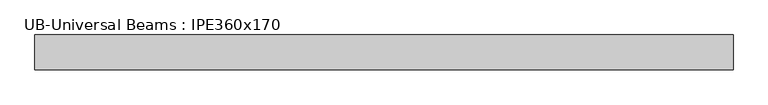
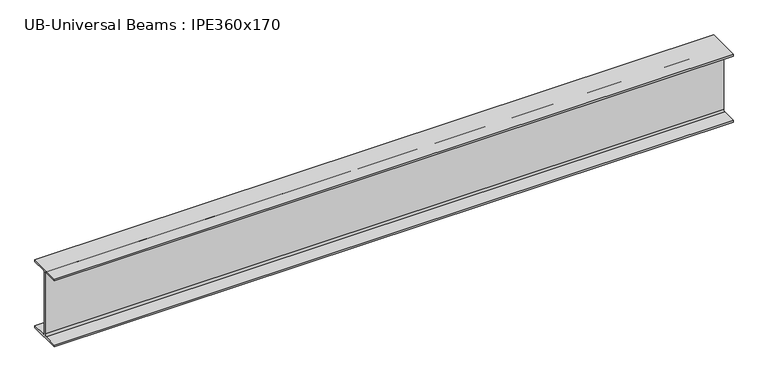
"""IFC4 building model written with IfcOpenShell, lengths in millimetres: beam geometry, UB-Universal Beams : IPE360x170."""

import ifcopenshell
import ifcopenshell.guid

model = None  # the IFC model being written
_history = None  # IfcOwnerHistory: only IFC2X3 demands one
_inside = {}  # id of a spatial element -> (the spatial element, [elements in it])
_under = {}  # id of a project, library or spatial element -> (it, [spatial elements below it])
_declared = {}  # id of a project -> (the project, [libraries it declares])
_typed = {}  # id of a type object -> (the type object, [elements of that type])
_made_of = {}  # id of a material, layer set ... -> (it, [elements and type objects made of it])


def new_model(schema):
    """Start an empty IFC model of exactly this schema.

    Asked for "IFC4X3", IfcOpenShell would pick the latest addendum, in which some entities
    have other attributes; the version numbers below select the first issue.
    IFC2X3 requires an IfcOwnerHistory on every rooted entity: one is made here for all.
    """
    global model, _history
    if schema == "IFC4X3":
        model = ifcopenshell.file(schema_version=(4, 3, 0, 0))
    else:
        model = ifcopenshell.file(schema=schema)
    _inside.clear()
    _under.clear()
    _declared.clear()
    _typed.clear()
    _made_of.clear()
    _history = None
    if model.schema == "IFC2X3":
        org = make("IfcOrganization", Name="unknown")
        user = make(
            "IfcPersonAndOrganization",
            ThePerson=make("IfcPerson", FamilyName="unknown"),
            TheOrganization=org,
        )
        app = make(
            "IfcApplication",
            ApplicationDeveloper=org,
            Version="unknown",
            ApplicationFullName="unknown",
            ApplicationIdentifier="unknown",
        )
        _history = make(
            "IfcOwnerHistory",
            OwningUser=user,
            OwningApplication=app,
            ChangeAction="ADDED",
            CreationDate=0,
        )
    return model


def make(cls, **values):
    """One entity of the class cls with the attributes given. An attribute that is None is left unset."""
    return model.create_entity(
        cls, **{name: value for name, value in values.items() if value is not None}
    )


def rooted(cls, **values):
    """An entity with a GlobalId (a new one), such as an element, a storey or a relation."""
    return make(cls, GlobalId=ifcopenshell.guid.new(), OwnerHistory=_history, **values)


def si_unit(unit_type, name, prefix=None):
    """IfcSIUnit, for example si_unit("LENGTHUNIT", "METRE", prefix="MILLI")."""
    return make("IfcSIUnit", UnitType=unit_type, Prefix=prefix, Name=name)


def assignment(units):
    """IfcUnitAssignment: the units of a project."""
    return None if units is None else make("IfcUnitAssignment", Units=units)


def point(xyz):
    """IfcCartesianPoint."""
    return None if xyz is None else make("IfcCartesianPoint", Coordinates=xyz)


def direction(xyz):
    """IfcDirection."""
    return None if xyz is None else make("IfcDirection", DirectionRatios=xyz)


def frame(location, z_axis=None, x_axis=None):
    """IfcAxis2Placement3D, a coordinate frame: its origin and axes. An axis left out is left unset."""
    return make(
        "IfcAxis2Placement3D",
        Location=point(location),
        Axis=direction(z_axis),
        RefDirection=direction(x_axis),
    )


def frame_2d(location, x_axis=None):
    """IfcAxis2Placement2D, a coordinate frame in the plane: its origin and x axis."""
    return make(
        "IfcAxis2Placement2D", Location=point(location), RefDirection=direction(x_axis)
    )


def origin():
    """The frame at (0, 0, 0) with its axes left unset."""
    return frame((0.0, 0.0, 0.0))


def place(relative_to, where):
    """IfcLocalPlacement: puts the frame where relative to a parent placement (None: the world)."""
    return make(
        "IfcLocalPlacement", PlacementRelTo=relative_to, RelativePlacement=where
    )


def context(
    kind, dimensions, precision=None, world=None, true_north=None, identifier=None
):
    """IfcGeometricRepresentationContext, for example the 3D "Model" context."""
    return make(
        "IfcGeometricRepresentationContext",
        ContextIdentifier=identifier,
        ContextType=kind,
        CoordinateSpaceDimension=dimensions,
        Precision=precision,
        WorldCoordinateSystem=world,
        TrueNorth=true_north,
    )


def project(units=None, contexts=None):
    """IfcProject with its units and contexts."""
    return rooted(
        "IfcProject",
        Name="project",
        RepresentationContexts=contexts,
        UnitsInContext=assignment(units),
    )


def spatial(cls, under=None, at=None, **own):
    """A site, building, storey or space (cls), placed at a placement, below another one or the project."""
    s = rooted(cls, ObjectPlacement=at, **own)
    if under is not None:
        _under.setdefault(under.id(), (under, []))[1].append(s)
    return s


def polyline(points):
    """IfcPolyline through the points."""
    return make("IfcPolyline", Points=[point(p) for p in points])


def circle_curve(where, radius):
    """IfcCircle in the frame where."""
    return make("IfcCircle", Position=where, Radius=radius)


def trimmed(basis, trim1, trim2, sense, master):
    """IfcTrimmedCurve: the piece of a basis curve between two trims."""
    return make(
        "IfcTrimmedCurve",
        BasisCurve=basis,
        Trim1=trim1,
        Trim2=trim2,
        SenseAgreement=sense,
        MasterRepresentation=master,
    )


def segment(curve, same_sense, transition):
    """IfcCompositeCurveSegment."""
    return make(
        "IfcCompositeCurveSegment",
        Transition=transition,
        SameSense=same_sense,
        ParentCurve=curve,
    )


def composite_curve(segments, self_intersect=None):
    """IfcCompositeCurve: segments joined end to end."""
    return make("IfcCompositeCurve", Segments=segments, SelfIntersect=self_intersect)


def outline(outer, holes=None, kind="AREA"):
    """IfcArbitraryClosedProfileDef: a profile drawn as a closed curve; with holes, ...WithVoids."""
    if holes is None:
        return make("IfcArbitraryClosedProfileDef", ProfileType=kind, OuterCurve=outer)
    return make(
        "IfcArbitraryProfileDefWithVoids",
        ProfileType=kind,
        OuterCurve=outer,
        InnerCurves=holes,
    )


def extrude(swept, where, along, depth):
    """IfcExtrudedAreaSolid: the profile swept, set in the frame where, extruded along a direction by depth."""
    return make(
        "IfcExtrudedAreaSolid",
        SweptArea=swept,
        Position=where,
        ExtrudedDirection=direction(along),
        Depth=depth,
    )


def shape(context_of_items, identifier, shape_type, items):
    """IfcShapeRepresentation: the items that make up one representation, for example the "Body"."""
    return make(
        "IfcShapeRepresentation",
        ContextOfItems=context_of_items,
        RepresentationIdentifier=identifier,
        RepresentationType=shape_type,
        Items=items,
    )


def source(mapping_origin, context_of_items, identifier, shape_type, items):
    """IfcRepresentationMap: a shape defined once, which mapped items show again and again."""
    return make(
        "IfcRepresentationMap",
        MappingOrigin=mapping_origin,
        MappedRepresentation=shape(context_of_items, identifier, shape_type, items),
    )


def transform(
    local_origin,
    x_axis=None,
    y_axis=None,
    z_axis=None,
    scale=None,
    scale2=None,
    scale3=None,
    uniform=True,
):
    """IfcCartesianTransformationOperator3D, or its non-uniform kind. x_axis, y_axis, z_axis: its Axis1, 2, 3."""
    if uniform:
        return make(
            "IfcCartesianTransformationOperator3D",
            Axis1=direction(x_axis),
            Axis2=direction(y_axis),
            LocalOrigin=point(local_origin),
            Scale=scale,
            Axis3=direction(z_axis),
        )
    return make(
        "IfcCartesianTransformationOperator3DnonUniform",
        Axis1=direction(x_axis),
        Axis2=direction(y_axis),
        LocalOrigin=point(local_origin),
        Scale=scale,
        Axis3=direction(z_axis),
        Scale2=scale2,
        Scale3=scale3,
    )


def mapped(mapping_source, mapping_target):
    """IfcMappedItem: shows the shape of a source again, moved by a transform."""
    return make(
        "IfcMappedItem", MappingSource=mapping_source, MappingTarget=mapping_target
    )


def made_of(thing, what):
    """Note that an element or type object is made of a material, layer set ...; save() writes the relation."""
    if what is not None:
        _made_of.setdefault(what.id(), (what, []))[1].append(thing)
    return thing


def element(
    cls,
    number,
    at=None,
    inside=None,
    cuts=None,
    type_object=None,
    material=None,
    context=None,
    identifier="Body",
    shape_type=None,
    held_by="IfcProductDefinitionShape",
    body=None,
    shapes=None,
    **own,
):
    """One element of the class cls, such as IfcWall. Its Tag is "e" and its number.

    at: its placement. inside: the storey or other place that contains it. cuts: it is an
    opening in that element (IfcRelVoidsElement). A single representation is given by context,
    identifier, shape_type and body (its items); several are given by shapes. held_by: the class
    of the entity that holds the representations. save() writes the other relations.
    """
    e = rooted(cls, Tag="e%d" % number, ObjectPlacement=at, **own)
    if body is not None:
        shapes = [shape(context, identifier, shape_type, body)]
    if shapes is not None:
        e.Representation = make(held_by, Representations=shapes)
    if inside is not None:
        _inside.setdefault(inside.id(), (inside, []))[1].append(e)
    if cuts is not None:
        rooted(
            "IfcRelVoidsElement", RelatingBuildingElement=cuts, RelatedOpeningElement=e
        )
    if type_object is not None:
        _typed.setdefault(type_object.id(), (type_object, []))[1].append(e)
    return made_of(e, material)


def aggregate(whole, parts):
    """IfcRelAggregates: a whole, such as a stair, and the parts it consists of."""
    return rooted("IfcRelAggregates", RelatingObject=whole, RelatedObjects=parts)


def save(model, path):
    """Write the relations noted so far, then the file.

    IfcRelAggregates (storeys below a building ...), IfcRelContainedInSpatialStructure (elements
    in a storey), IfcRelDefinesByType, IfcRelAssociatesMaterial and IfcRelDeclares: one each for
    every whole, place, type object, material and project.
    """
    for whole, parts in _under.values():
        aggregate(whole, parts)
    for where, things in _inside.values():
        rooted(
            "IfcRelContainedInSpatialStructure",
            RelatedElements=things,
            RelatingStructure=where,
        )
    for kind, things in _typed.values():
        rooted("IfcRelDefinesByType", RelatedObjects=things, RelatingType=kind)
    for what, things in _made_of.values():
        rooted("IfcRelAssociatesMaterial", RelatedObjects=things, RelatingMaterial=what)
    for by, libraries in _declared.values():
        rooted("IfcRelDeclares", RelatingContext=by, RelatedDefinitions=libraries)
    model.write(path)


def ub_universal_beams_ipe360x170_eaf81fbb(model_context):
    return source(origin(), model_context, "Body", "SweptSolid", [
        extrude(outline(composite_curve([segment(polyline([(85.0, -169.8), (85.0, -180.0), (-85.0, -180.0), (-85.0, -169.8), (-11.9, -169.8)]), True, "CONTINUOUS"), segment(trimmed(circle_curve(frame_2d((-11.9, -160.9)), 8.9), [point((-11.9, -169.8))], [point((-3.0, -160.9))], True, "CARTESIAN"), True, "CONTINUOUS"), segment(polyline([(-3.0, -160.9), (-3.0, 160.9)]), True, "CONTINUOUS"), segment(trimmed(circle_curve(frame_2d((-11.9, 160.9)), 8.9), [point((-3.0, 160.9))], [point((-11.9, 169.8))], True, "CARTESIAN"), True, "CONTINUOUS"), segment(polyline([(-11.9, 169.8), (-85.0, 169.8), (-85.0, 180.0), (85.0, 180.0), (85.0, 169.8), (11.9, 169.8)]), True, "CONTINUOUS"), segment(trimmed(circle_curve(frame_2d((11.9, 160.9)), 8.9), [point((11.9, 169.8))], [point((3.0, 160.9))], True, "CARTESIAN"), True, "CONTINUOUS"), segment(polyline([(3.0, 160.9), (3.0, -160.9)]), True, "CONTINUOUS"), segment(trimmed(circle_curve(frame_2d((11.9, -160.9)), 8.9), [point((3.0, -160.9))], [point((11.9, -169.8))], True, "CARTESIAN"), True, "CONTINUOUS"), segment(polyline([(11.9, -169.8), (85.0, -169.8)]), True, "CONTINUOUS")], self_intersect=False)), frame((-1593.4, 0.0, 0.0), z_axis=(1.0, 0.0, 0.0), x_axis=(0.0, 1.0, 0.0)), (0.0, 0.0, 1.0), 3404.4331121),
    ])


if __name__ == "__main__":
    model = new_model("IFC4")
    model_context = context("Model", 3, world=origin())
    ifc_project = project(units=[si_unit("LENGTHUNIT", "METRE", prefix="MILLI")], contexts=[model_context])
    site = spatial("IfcSite", under=ifc_project)
    building = spatial("IfcBuilding", under=site)
    placement = place(None, origin())
    ub_universal_beams_ipe360x170_shape = ub_universal_beams_ipe360x170_eaf81fbb(model_context)
    element("IfcBeam", 1, ObjectType="UB-Universal Beams : IPE360x170", at=placement, inside=building, context=model_context, shape_type="MappedRepresentation", body=[
        mapped(ub_universal_beams_ipe360x170_shape, transform((0.0, 0.0, 0.0), x_axis=(1.0, 0.0, 0.0), y_axis=(0.0, 1.0, 0.0), z_axis=(0.0, 0.0, 1.0))),
    ])
    save(model, "model.ifc")
